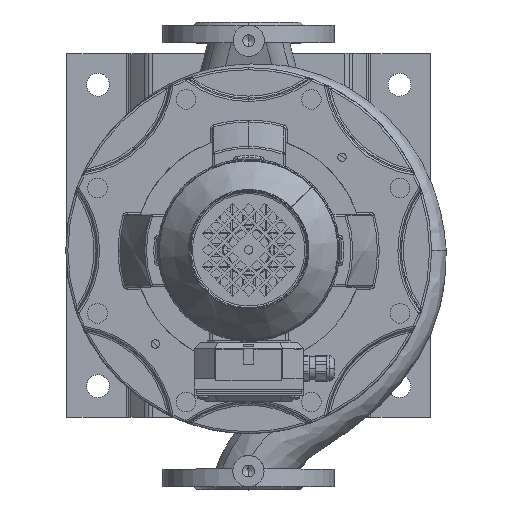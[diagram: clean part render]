
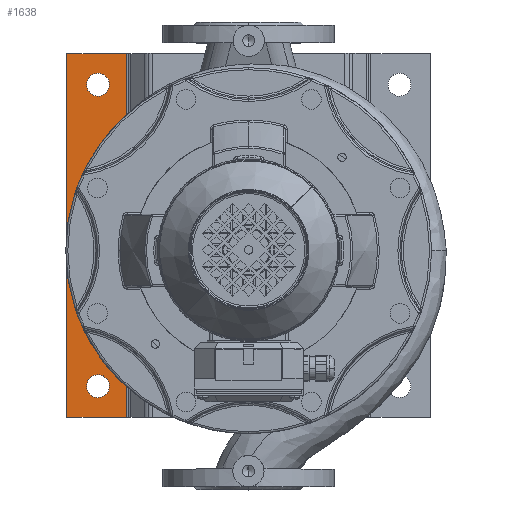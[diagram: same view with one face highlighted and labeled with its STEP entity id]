
A CAD part, top view. The second image highlights one B-rep face of the part: STEP entity #1638.
In plain terms, the highlighted planar face has unit normal (0, 0, 1) as drawn and (0, 1, 0) by its records, which use the part's own axes.
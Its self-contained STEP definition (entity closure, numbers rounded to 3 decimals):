
#1638=ADVANCED_FACE('',(#2971,#2972,#2973),#2974,.F.);
#1682=EDGE_CURVE('',#3054,#3055,#3056,.T.);
#2971=FACE_OUTER_BOUND('',#9091,.T.);
#2972=FACE_BOUND('',#9092,.T.);
#2973=FACE_BOUND('',#9093,.T.);
#2974=PLANE('',#9094);
#3054=VERTEX_POINT('',#9177);
#3055=VERTEX_POINT('',#9178);
#3056=LINE('',#9179,#9180);
#9091=EDGE_LOOP('',(#16150,#16151,#16152,#16153));
#9092=EDGE_LOOP('',(#16154,#16155));
#9093=EDGE_LOOP('',(#16156,#16157));
#9094=AXIS2_PLACEMENT_3D('',#16158,#16159,#16160);
#9177=CARTESIAN_POINT('',(350.,5.0,0.0));
#9178=CARTESIAN_POINT('',(292.485,5.0,0.0));
#9179=CARTESIAN_POINT('',(350.,5.0,0.0));
#9180=VECTOR('',#16398,1.);
#16150=ORIENTED_EDGE('',*,*,#28625,.F.);
#16151=ORIENTED_EDGE('',*,*,#28626,.F.);
#16152=ORIENTED_EDGE('',*,*,#28627,.F.);
#16153=ORIENTED_EDGE('',*,*,#1682,.T.);
#16154=ORIENTED_EDGE('',*,*,#28604,.T.);
#16155=ORIENTED_EDGE('',*,*,#28578,.T.);
#16156=ORIENTED_EDGE('',*,*,#28595,.T.);
#16157=ORIENTED_EDGE('',*,*,#28593,.T.);
#16158=CARTESIAN_POINT('',(320.,5.0,0.0));
#16159=DIRECTION('',(0.0,-1.0,0.0));
#16160=DIRECTION('',(1.0,0.0,0.0));
#16398=DIRECTION('',(-1.0,0.0,0.0));
#28578=EDGE_CURVE('',#47088,#47092,#47094,.T.);
#28593=EDGE_CURVE('',#47115,#47119,#47121,.T.);
#28595=EDGE_CURVE('',#47119,#47115,#47123,.T.);
#28604=EDGE_CURVE('',#47092,#47088,#47132,.T.);
#28625=EDGE_CURVE('',#47154,#3055,#47155,.T.);
#28626=EDGE_CURVE('',#47156,#47154,#47157,.T.);
#28627=EDGE_CURVE('',#3054,#47156,#47158,.T.);
#47088=VERTEX_POINT('',#56407);
#47092=VERTEX_POINT('',#56412);
#47094=CIRCLE('',#56415,11.0);
#47115=VERTEX_POINT('',#56440);
#47119=VERTEX_POINT('',#56445);
#47121=CIRCLE('',#56448,11.0);
#47123=CIRCLE('',#56450,11.0);
#47132=CIRCLE('',#56459,11.0);
#47154=VERTEX_POINT('',#56483);
#47155=LINE('',#56484,#56485);
#47156=VERTEX_POINT('',#56486);
#47157=LINE('',#56487,#56488);
#47158=LINE('',#56489,#56490);
#56407=CARTESIAN_POINT('',(317.522,5.0,19.283));
#56412=CARTESIAN_POINT('',(322.478,5.0,40.717));
#56415=AXIS2_PLACEMENT_3D('',#66518,#66519,#66520);
#56440=CARTESIAN_POINT('',(318.321,5.0,309.129));
#56445=CARTESIAN_POINT('',(321.679,5.0,330.871));
#56448=AXIS2_PLACEMENT_3D('',#66542,#66543,#66544);
#56450=AXIS2_PLACEMENT_3D('',#66545,#66546,#66547);
#56459=AXIS2_PLACEMENT_3D('',#66563,#66564,#66565);
#56483=CARTESIAN_POINT('',(292.485,5.0,350.0));
#56484=CARTESIAN_POINT('',(292.485,5.0,0.0));
#56485=VECTOR('',#66601,1.0);
#56486=CARTESIAN_POINT('',(350.,5.0,350.0));
#56487=CARTESIAN_POINT('',(350.,5.0,350.0));
#56488=VECTOR('',#66602,1.);
#56489=CARTESIAN_POINT('',(350.,5.0,0.0));
#56490=VECTOR('',#66603,1.0);
#66518=CARTESIAN_POINT('',(320.,5.0,30.0));
#66519=DIRECTION('',(-0.0,-1.0,0.0));
#66520=DIRECTION('',(-0.225,0.0,-0.974));
#66542=CARTESIAN_POINT('',(320.,5.0,320.0));
#66543=DIRECTION('',(-0.0,-1.0,0.0));
#66544=DIRECTION('',(-0.153,0.0,-0.988));
#66545=CARTESIAN_POINT('',(320.,5.0,320.0));
#66546=DIRECTION('',(-0.0,-1.0,0.0));
#66547=DIRECTION('',(-0.153,0.0,-0.988));
#66563=CARTESIAN_POINT('',(320.,5.0,30.0));
#66564=DIRECTION('',(-0.0,-1.0,0.0));
#66565=DIRECTION('',(-0.225,0.0,-0.974));
#66601=DIRECTION('',(0.0,0.0,-1.0));
#66602=DIRECTION('',(-1.0,0.0,0.0));
#66603=DIRECTION('',(0.0,0.0,1.0));
